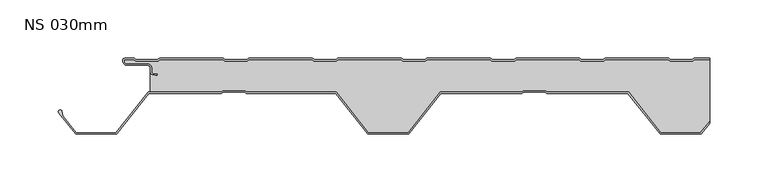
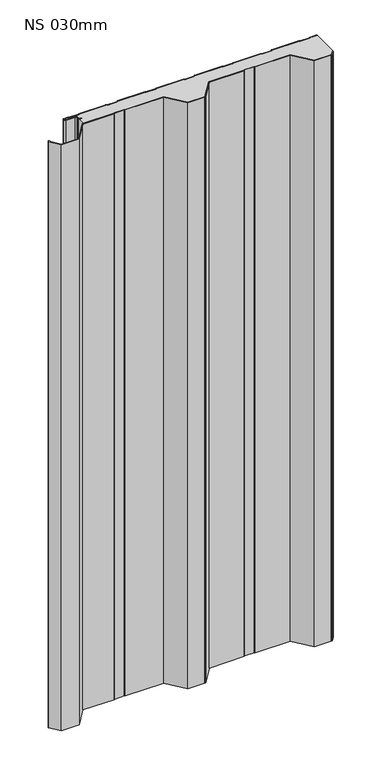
"""IFC4 building model written with IfcOpenShell, lengths in millimetres: plate geometry, KIP-MEX-KC-R19-CP-NS-SL : NS 030mm."""

from ifc_helpers import new_model, si_unit, point, frame_2d, origin, origin_with_axes, place, context, project, spatial, polyline, circle_curve, trimmed, segment, composite_curve, outline, extrude, source, transform, mapped, element, save


def ns_030mm_3c0a596e(model_context):
    return source(origin(), model_context, "Body", "SweptSolid", [
        extrude(outline(composite_curve([segment(polyline([(227.1276411, -0.0163932), (239.9989362, -0.0159212), (239.9989728, -1.0159212), (226.9785266, -1.0163987), (225.5929377, -2.2166802), (206.2177714, -2.2173906), (204.8320944, -1.0172107), (150.7786791, -1.0191927), (149.3930901, -2.2194742), (130.0179238, -2.2201847), (128.6322469, -1.0200048), (74.5788316, -1.0219868), (73.1932426, -2.2222683), (53.8180763, -2.2229787), (52.4323993, -1.0227988), (-1.621016, -1.0247808), (-3.0066049, -2.2250623), (-22.3817713, -2.2257728), (-23.7674482, -1.0255929), (-77.8208635, -1.0275749), (-79.2064525, -2.2278564), (-98.5816188, -2.2285668), (-99.9672958, -1.0283869), (-154.0207111, -1.0303689), (-155.4063, -2.2306504), (-174.7814663, -2.2313609), (-176.1671433, -1.031181), (-230.2205586, -1.033163), (-231.6061476, -2.2334445), (-250.9813139, -2.2341549), (-252.3670036, -1.033964), (-260.8685651, -1.0342757), (-260.8685101, -2.5341955)]), True, "CONTINUOUS"), segment(trimmed(circle_curve(frame_2d((-258.3686058, -2.5341038)), 2.4999043), [point((-260.8685101, -2.5341955))], [point((-258.3685142, -5.0340081))], True, "CARTESIAN"), True, "CONTINUOUS"), segment(polyline([(-258.3685142, -5.0340081), (-240.3679292, -5.033348)]), True, "CONTINUOUS"), segment(trimmed(circle_curve(frame_2d((-240.3678191, -8.033707)), 3.0003589), [point((-240.3679292, -5.033348))], [point((-237.3674611, -8.031496))], False, "CARTESIAN"), True, "CONTINUOUS"), segment(polyline([(-237.3674611, -8.031496), (-237.3673292, -11.6278092)]), True, "CONTINUOUS"), segment(trimmed(circle_curve(frame_2d((-235.8665538, -11.6277541)), 1.5007756), [point((-237.3673292, -11.6278092))], [point((-236.1259811, -13.1059371))], True, "CARTESIAN"), True, "CONTINUOUS"), segment(polyline([(-236.1259811, -13.1059371), (-232.5836235, -13.7276357), (-232.7564857, -14.7125821), (-236.2988441, -14.0908834)]), True, "CONTINUOUS"), segment(trimmed(circle_curve(frame_2d((-235.8665545, -11.6277538)), 2.5007763), [point((-236.2988441, -14.0908834))], [point((-238.3673303, -11.62932))], False, "CARTESIAN"), True, "CONTINUOUS"), segment(polyline([(-238.3673303, -11.62932), (-238.3674622, -8.0321372)]), True, "CONTINUOUS"), segment(trimmed(circle_curve(frame_2d((-240.3678177, -8.0337097)), 2.0003562), [point((-238.3674622, -8.0321372))], [point((-240.3678911, -6.0333536))], True, "CARTESIAN"), True, "CONTINUOUS"), segment(polyline([(-240.3678911, -6.0333536), (-258.3684885, -6.0340136)]), True, "CONTINUOUS"), segment(trimmed(circle_curve(frame_2d((-258.3686169, -2.5340983)), 3.4999153), [point((-258.3684885, -6.0340136))], [point((-261.8685322, -2.5342266))], False, "CARTESIAN"), True, "CONTINUOUS"), segment(polyline([(-261.8685322, -2.5342266), (-261.8685689, -1.5343029)]), True, "CONTINUOUS"), segment(trimmed(circle_curve(frame_2d((-260.3685894, -1.5342479)), 1.4999795), [point((-261.8685689, -1.5343029))], [point((-260.3686444, -0.0342684))], False, "CARTESIAN"), True, "CONTINUOUS"), segment(polyline([(-260.3686444, -0.0342684), (-252.5161787, -0.0339805)]), True, "CONTINUOUS"), segment(trimmed(circle_curve(frame_2d((-252.5161273, -1.4339777)), 1.3999972), [point((-252.5161787, -0.0339805))], [point((-251.5995493, -0.3757354))], False, "CARTESIAN"), True, "CONTINUOUS"), segment(polyline([(-251.5995493, -0.3757354), (-250.6084701, -1.2341412), (-231.9790647, -1.2334582), (-230.9880485, -0.3749796)]), True, "CONTINUOUS"), segment(trimmed(circle_curve(frame_2d((-230.0713928, -1.4331547)), 1.3999972), [point((-230.9880485, -0.3749796))], [point((-230.0714442, -0.0331575))], False, "CARTESIAN"), True, "CONTINUOUS"), segment(polyline([(-230.0714442, -0.0331575), (-176.3163311, -0.0311864)]), True, "CONTINUOUS"), segment(trimmed(circle_curve(frame_2d((-176.3162798, -1.4311836)), 1.3999972), [point((-176.3163311, -0.0311864))], [point((-175.3997017, -0.3729413))], False, "CARTESIAN"), True, "CONTINUOUS"), segment(polyline([(-175.3997017, -0.3729413), (-174.4086226, -1.2313472), (-155.7792171, -1.2306641), (-154.788201, -0.3721856)]), True, "CONTINUOUS"), segment(trimmed(circle_curve(frame_2d((-153.8715453, -1.4303606)), 1.3999972), [point((-154.788201, -0.3721856))], [point((-153.8715966, -0.0303634))], False, "CARTESIAN"), True, "CONTINUOUS"), segment(polyline([(-153.8715966, -0.0303634), (-100.1164836, -0.0283924)]), True, "CONTINUOUS"), segment(trimmed(circle_curve(frame_2d((-100.1164322, -1.4283896)), 1.3999972), [point((-100.1164836, -0.0283924))], [point((-99.1998542, -0.3701473))], False, "CARTESIAN"), True, "CONTINUOUS"), segment(polyline([(-99.1998542, -0.3701473), (-98.208775, -1.2285531), (-79.5793696, -1.2278701), (-78.5883534, -0.3693915)]), True, "CONTINUOUS"), segment(trimmed(circle_curve(frame_2d((-77.6716977, -1.4275666)), 1.3999972), [point((-78.5883534, -0.3693915))], [point((-77.6717491, -0.0275694))], False, "CARTESIAN"), True, "CONTINUOUS"), segment(polyline([(-77.6717491, -0.0275694), (-23.916636, -0.0255983)]), True, "CONTINUOUS"), segment(trimmed(circle_curve(frame_2d((-23.9165847, -1.4255955)), 1.3999972), [point((-23.916636, -0.0255983))], [point((-23.0000066, -0.3673532))], False, "CARTESIAN"), True, "CONTINUOUS"), segment(polyline([(-23.0000066, -0.3673532), (-22.0089275, -1.2257591), (-3.3795221, -1.225076), (-2.3885059, -0.3665975)]), True, "CONTINUOUS"), segment(trimmed(circle_curve(frame_2d((-1.4718502, -1.4247725)), 1.3999972), [point((-2.3885059, -0.3665975))], [point((-1.4719015, -0.0247753))], False, "CARTESIAN"), True, "CONTINUOUS"), segment(polyline([(-1.4719015, -0.0247753), (52.2832115, -0.0228043)]), True, "CONTINUOUS"), segment(trimmed(circle_curve(frame_2d((52.2832629, -1.4228015)), 1.3999972), [point((52.2832115, -0.0228043))], [point((53.1998409, -0.3645592))], False, "CARTESIAN"), True, "CONTINUOUS"), segment(polyline([(53.1998409, -0.3645592), (54.1909201, -1.222965), (72.8203255, -1.2222819), (73.8113417, -0.3638034)]), True, "CONTINUOUS"), segment(trimmed(circle_curve(frame_2d((74.7279974, -1.4219785)), 1.3999972), [point((73.8113417, -0.3638034))], [point((74.727946, -0.0219813))], False, "CARTESIAN"), True, "CONTINUOUS"), segment(polyline([(74.727946, -0.0219813), (128.4830591, -0.0200102)]), True, "CONTINUOUS"), segment(trimmed(circle_curve(frame_2d((128.4831104, -1.4200074)), 1.3999972), [point((128.4830591, -0.0200102))], [point((129.3996885, -0.3617651))], False, "CARTESIAN"), True, "CONTINUOUS"), segment(polyline([(129.3996885, -0.3617651), (130.3907676, -1.220171), (149.020173, -1.2194879), (150.0111892, -0.3610094)]), True, "CONTINUOUS"), segment(trimmed(circle_curve(frame_2d((150.9278449, -1.4191844)), 1.3999972), [point((150.0111892, -0.3610094))], [point((150.9277936, -0.0191872))], False, "CARTESIAN"), True, "CONTINUOUS"), segment(polyline([(150.9277936, -0.0191872), (204.6829066, -0.0172162)]), True, "CONTINUOUS"), segment(trimmed(circle_curve(frame_2d((204.682958, -1.4172134)), 1.3999972), [point((204.6829066, -0.0172162))], [point((205.599536, -0.3589711))], False, "CARTESIAN"), True, "CONTINUOUS"), segment(polyline([(205.599536, -0.3589711), (206.5906152, -1.2173769), (225.2200206, -1.2166938), (226.2110368, -0.3582153)]), True, "CONTINUOUS"), segment(trimmed(circle_curve(frame_2d((227.1276924, -1.4163904)), 1.3999972), [point((226.2110368, -0.3582153))], [point((227.1276411, -0.0163932))], False, "CARTESIAN"), True, "CONTINUOUS")], self_intersect=False)), origin_with_axes(), (0.0, 0.0, 1.0), 1224.3718713),
        extrude(outline(composite_curve([segment(polyline([(-314.0514565, -45.3743988), (-313.3501987, -49.3468053), (-301.8079514, -64.0358259), (-267.7799839, -64.0345782), (-240.2812374, -29.0335319), (-177.8440581, -29.0312425), (-176.4298117, -28.0311895), (-157.22229, -28.0304852), (-155.8079703, -29.0304345), (-79.3089933, -29.0276295), (-51.8076802, -64.0266591), (-17.7797127, -64.0254113), (9.7190337, -29.024365), (79.1871118, -29.0218178), (80.6013583, -28.0217649), (99.8088799, -28.0210606), (101.2231997, -29.0210098), (170.6912778, -29.0184626), (198.192591, -64.0174922), (232.2205584, -64.0162445), (240.0009198, -54.1132189), (240.0009791, -55.7318093), (232.7066303, -65.0162266), (197.7065924, -65.01751), (170.2052792, -30.0184804), (100.9054116, -30.0210215), (99.4910918, -29.0210722), (80.9192197, -29.0217532), (79.5049733, -30.0218062), (10.2051057, -30.0243472), (-17.2936408, -65.0253935), (-52.2936788, -65.0266769), (-79.7949919, -30.0276473), (-156.1257584, -30.0304461), (-157.5400781, -29.0304969), (-176.1119503, -29.0311779), (-177.5261967, -30.0312308), (-239.7951655, -30.0335141), (-267.2939119, -65.0345604), (-302.2939499, -65.0358437), (-316.6619777, -46.7506476)]), True, "CONTINUOUS"), segment(trimmed(circle_curve(frame_2d((-315.482533, -45.8238709)), 1.5000016), [point((-316.6619777, -46.7506476))], [point((-314.0514565, -45.3743988))], False, "CARTESIAN"), True, "CONTINUOUS")], self_intersect=False)), origin_with_axes(), (0.0, 0.0, 1.0), 1224.3718713),
        extrude(outline(composite_curve([segment(polyline([(-238.3666921, -29.0334617), (-238.3673303, -11.6293311)]), True, "CONTINUOUS"), segment(trimmed(circle_curve(frame_2d((-235.8665545, -11.6277648)), 2.5007762), [point((-238.3673303, -11.6293311))], [point((-236.2988441, -14.0908945))], True, "CARTESIAN"), True, "CONTINUOUS"), segment(polyline([(-236.2988441, -14.0908945), (-232.7564858, -14.7125932), (-232.5836235, -13.7276467), (-236.1259811, -13.1059481)]), True, "CONTINUOUS"), segment(trimmed(circle_curve(frame_2d((-235.8665538, -11.6277652)), 1.5007755), [point((-236.1259811, -13.1059481))], [point((-237.3673293, -11.6278203))], False, "CARTESIAN"), True, "CONTINUOUS"), segment(polyline([(-237.3673293, -11.6278203), (-237.3674611, -8.031507)]), True, "CONTINUOUS"), segment(trimmed(circle_curve(frame_2d((-240.3678192, -8.033718)), 3.0003589), [point((-237.3674611, -8.031507))], [point((-240.3679292, -5.0333591))], True, "CARTESIAN"), True, "CONTINUOUS"), segment(polyline([(-240.3679292, -5.0333591), (-258.3685141, -5.0340192)]), True, "CONTINUOUS"), segment(trimmed(circle_curve(frame_2d((-258.3686058, -2.5341149)), 2.4999043), [point((-258.3685141, -5.0340192))], [point((-260.8685101, -2.5342065))], False, "CARTESIAN"), True, "CONTINUOUS"), segment(polyline([(-260.8685101, -2.5342065), (-260.8685651, -1.0342784), (-252.3670005, -1.0339667), (-250.9813138, -2.2341549), (-231.6061475, -2.2334445), (-230.2205586, -1.033163), (-176.1671433, -1.031181), (-174.7814663, -2.2313609), (-155.4063, -2.2306504), (-154.020711, -1.0303689), (-99.9672957, -1.0283869), (-98.5816187, -2.2285668), (-79.2064524, -2.2278564), (-77.8208635, -1.0275749), (-23.7674482, -1.0255929), (-22.3817712, -2.2257728), (-3.0066049, -2.2250623), (-1.6210159, -1.0247808), (52.4323994, -1.0227988), (53.8180763, -2.2229787), (73.1932426, -2.2222683), (74.5788316, -1.0219868), (128.6322469, -1.0200048), (130.0179239, -2.2201847), (149.3930902, -2.2194742), (150.7786791, -1.0191927), (204.8320945, -1.0172107), (206.2177714, -2.2173906), (225.5929377, -2.2166802), (226.9785267, -1.0163987), (239.9989728, -1.0159212), (240.0009198, -54.1132189), (232.2205584, -64.0162445), (198.192591, -64.0174922), (170.6912778, -29.0184626), (101.2231997, -29.0210098), (99.8088799, -28.0210606), (80.6013583, -28.0217649), (79.1871118, -29.0218178), (9.7190337, -29.024365), (-17.7797127, -64.0254113), (-51.8076802, -64.0266591), (-79.3089933, -29.0276295), (-155.8079703, -29.0304345), (-157.22229, -28.0304852), (-176.4298117, -28.0311895), (-177.8440581, -29.0312425), (-238.3666921, -29.0334617)]), True, "CONTINUOUS")], self_intersect=False)), origin_with_axes(), (0.0, 0.0, 1.0), 1224.3718713),
    ])


if __name__ == "__main__":
    model = new_model("IFC4")
    model_context = context("Model", 3, world=origin())
    ifc_project = project(units=[si_unit("LENGTHUNIT", "METRE", prefix="MILLI")], contexts=[model_context])
    site = spatial("IfcSite", under=ifc_project)
    building = spatial("IfcBuilding", under=site)
    placement = place(None, origin())
    ns_030mm_shape = ns_030mm_3c0a596e(model_context)
    element("IfcPlate", 1, ObjectType="KIP-MEX-KC-R19-CP-NS-SL : NS 030mm", at=placement, inside=building, context=model_context, shape_type="MappedRepresentation", body=[
        mapped(ns_030mm_shape, transform((0.0, 0.0, 0.0), x_axis=(1.0, 0.0, 0.0), y_axis=(0.0, 1.0, 0.0), z_axis=(0.0, 0.0, 1.0))),
    ])
    save(model, "model.ifc")
